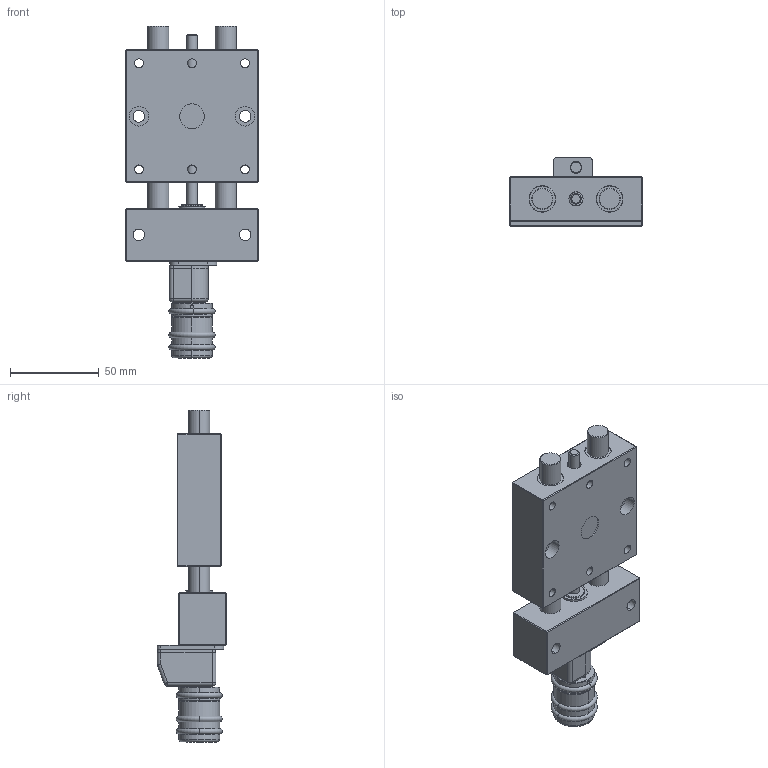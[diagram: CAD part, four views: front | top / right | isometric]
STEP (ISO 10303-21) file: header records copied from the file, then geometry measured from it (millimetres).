
FILE_DESCRIPTION (( 'STEP AP203' ), '1' );
FILE_NAME ('PT2512-PA-Positioniertisch.STEP', '2016-01-15T17:28:08', ( '' ), ( '' ), 'SwSTEP 2.0', 'SolidWorks 2014', '' );
FILE_SCHEMA (( 'CONFIG_CONTROL_DESIGN' ));
Length unit declared in the file: millimetre
Products named in the file (4): PT2512-PA-Positioniertisch; PT2512-000-01-Festteil-PA(E); PT12-000-02-Schlitten-komplett_n_Standard; PA0812-PTHT-000-Positionsanzeiger-komplett_n_Standard
Assembly tree (3 placements, depth 2):
  PT2512-PA-Positioniertisch
    PT2512-000-01-Festteil-PA(E)
    PT12-000-02-Schlitten-komplett_n_Standard
    PA0812-PTHT-000-Positionsanzeiger-komplett_n_Standard
Bounding box: 75 x 39.2 x 187.53 mm (x, y, z)
Volume: 222353.4 mm3; surface area: 62979.1 mm2
Topology: 5 solids, 5 shells, 452 faces, 1057 edges, 652 vertices
Faces by surface type: cylinder 182, plane 169, cone 73, torus 15, sphere 7, bspline 6
Entity records: 14334 total; most frequent: CARTESIAN_POINT 3298, DIRECTION 2347, ORIENTED_EDGE 2100, EDGE_CURVE 1050, AXIS2_PLACEMENT_3D 905, VERTEX_POINT 652, EDGE_LOOP 542, VECTOR 537
